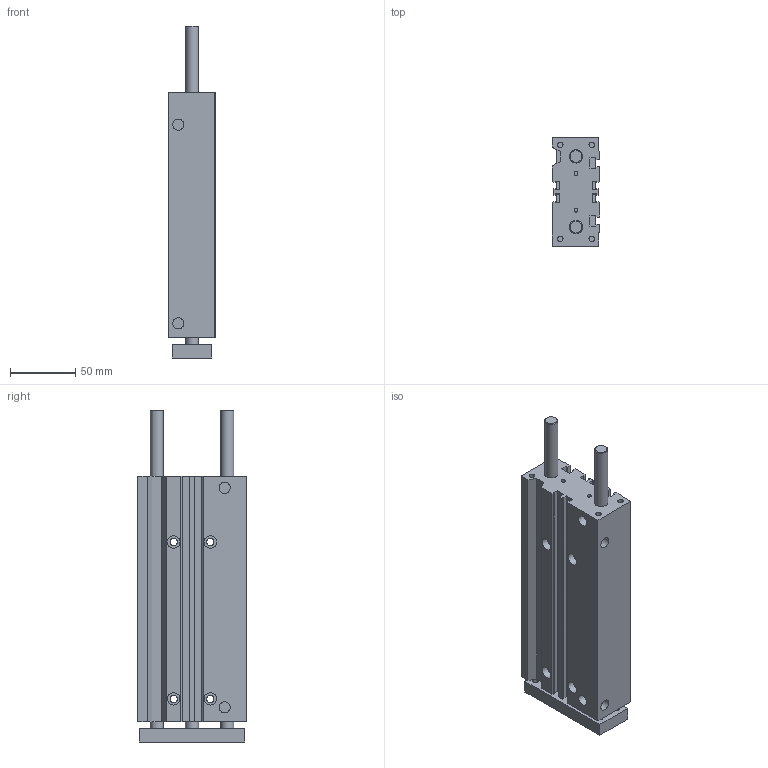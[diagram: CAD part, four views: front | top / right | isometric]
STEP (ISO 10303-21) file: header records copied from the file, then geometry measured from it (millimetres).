
FILE_DESCRIPTION((''),'2;1');
FILE_NAME('K:\A-Mauro\_Inventor\LIBRERIE\6100\6100_#_#_#\6100200150C.stp','2007-02-26T08:55:12',('valotma1'),(''),'Autodesk Inventor 11','Autodesk Inventor 11','');
FILE_SCHEMA(('AUTOMOTIVE_DESIGN { 1 0 10303 214 1 1 1 1 }'));
Length unit declared in the file: millimetre
Products named in the file (3): 6100200150C; CORPO Ø20 C150 C; PIASTRA Ø20 C150 C
Assembly tree (2 placements, depth 2):
  6100200150C
    CORPO Ø20 C150 C
    PIASTRA Ø20 C150 C
Bounding box: 36 x 83 x 254 mm (x, y, z)
Volume: 534449.8 mm3; surface area: 113196.7 mm2
Topology: 2 solids, 2 shells, 158 faces, 393 edges, 261 vertices
Faces by surface type: plane 95, bspline 52, cylinder 9, cone 2
Full cylindrical faces by diameter (mm): 10 x3
Entity records: 4932 total; most frequent: CARTESIAN_POINT 1329, ORIENTED_EDGE 702, DIRECTION 654, EDGE_CURVE 351, VECTOR 270, LINE 270, VERTEX_POINT 253, EDGE_LOOP 234
